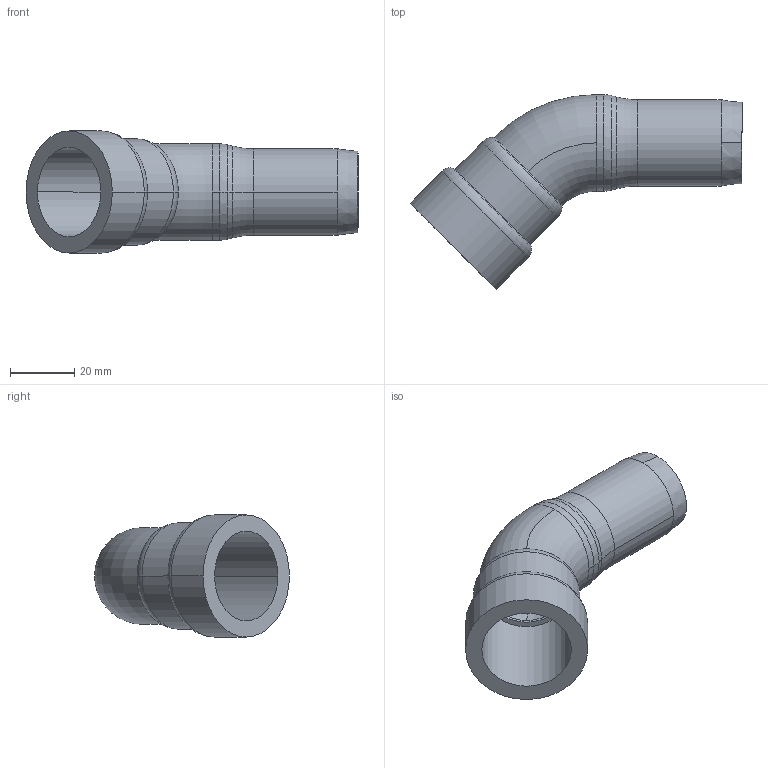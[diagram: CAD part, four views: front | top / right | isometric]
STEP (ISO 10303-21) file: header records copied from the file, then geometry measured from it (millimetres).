
FILE_DESCRIPTION(('Creo Elements/Direct Modeling STEP Export'),'2;1');
FILE_NAME('C9412_3-4.stp','2020-06-25T13:45:31',(''),(''),'PTC Creo Elements/Direct Modeling STEP processor for AP214 (Solid Model)','PTC Creo Elements/Direct Modeling 19.0C 15-Aug-2015 (C) Parametric Technology GmbH','');
FILE_SCHEMA(('AUTOMOTIVE_DESIGN { 1 0 10303 214 1 1 1 1 }'));
Length unit declared in the file: millimetre
Products named in the file (1): 9412_3-4
Bounding box: 103.08 x 60.49 x 37.9 mm (x, y, z)
Volume: 28788.6 mm3; surface area: 18414.5 mm2
Topology: 1 solids, 1 shells, 45 faces, 100 edges, 58 vertices
Faces by surface type: torus 16, cylinder 16, cone 10, plane 3
Entity records: 1116 total; most frequent: ORIENTED_EDGE 200, DIRECTION 198, CARTESIAN_POINT 170, EDGE_CURVE 100, AXIS2_PLACEMENT_3D 86, VERTEX_POINT 58, EDGE_LOOP 48, FACE_OUTER_BOUND 45
